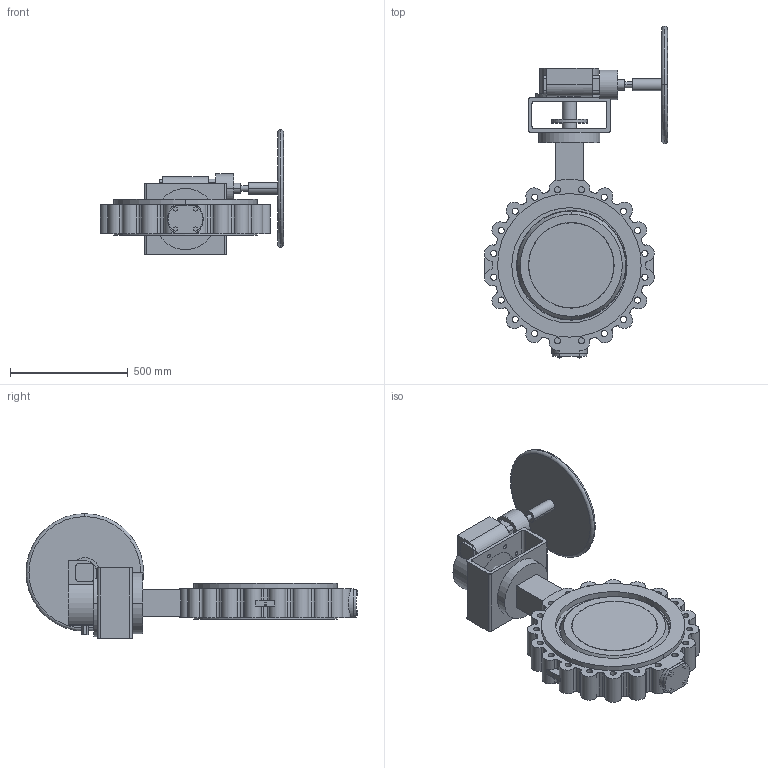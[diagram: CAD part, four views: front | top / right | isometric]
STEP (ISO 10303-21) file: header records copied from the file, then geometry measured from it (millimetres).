
FILE_DESCRIPTION( ( '' ), '1' );
FILE_NAME( 'F:/DE-SHS/TB/OR/04-Sonstiges/daten/Excel/mneugeba/018_ZETRIX-PN16_Getriebe-Rotork/c000006438.stp', '2016-09-19T06:29:10', ( '' ), ( '' ), ' ', ' ', ' ' );
FILE_SCHEMA( ( 'CONFIG_CONTROL_DESIGN' ) );
Length unit declared in the file: millimetre
Products named in the file (2): 1; 2
Bounding box: 777.93 x 1410.6 x 530 mm (x, y, z)
Volume: 62086647.3 mm3; surface area: 3220460.6 mm2
Topology: 2 solids, 2 shells, 402 faces, 1081 edges, 721 vertices
Faces by surface type: cylinder 243, plane 147, sphere 4, cone 4, torus 4
Entity records: 13800 total; most frequent: CARTESIAN_POINT 3017, DIRECTION 2392, ORIENTED_EDGE 2162, EDGE_CURVE 1081, AXIS2_PLACEMENT_3D 938, VERTEX_POINT 721, CIRCLE 534, LINE 516
